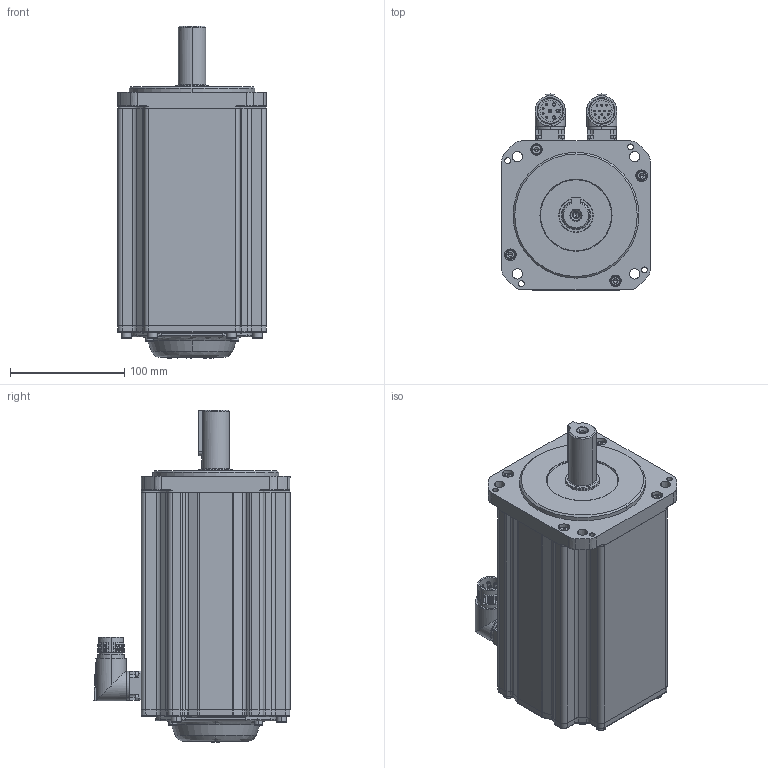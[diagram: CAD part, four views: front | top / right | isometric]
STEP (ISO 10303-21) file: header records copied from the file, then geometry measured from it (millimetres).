
FILE_DESCRIPTION (( 'STEP AP203' ), '1' );
FILE_NAME ('MC20-130-3L30-N302-1¡õPK-NNNN.STEP', '2025-10-08T02:02:25', ( '' ), ( '' ), 'SwSTEP 2.0', 'SolidWorks 2014', '' );
FILE_SCHEMA (( 'CONFIG_CONTROL_DESIGN' ));
Products named in the file (1): MC20-130-3L30-N302-1¡õPK-NNNN
Bounding box: 130 x 171.35 x 290.2 mm (x, y, z)
Volume: 3397951.1 mm3; surface area: 305693.5 mm2
Topology: 28 solids, 28 shells, 2024 faces, 4803 edges, 2863 vertices
Faces by surface type: plane 735, cylinder 568, cone 357, bspline 204, torus 148, sphere 12
Entity records: 62203 total; most frequent: CARTESIAN_POINT 16842, DIRECTION 9530, ORIENTED_EDGE 9382, EDGE_CURVE 4691, AXIS2_PLACEMENT_3D 3694, VERTEX_POINT 2863, EDGE_LOOP 2270, VECTOR 2142
